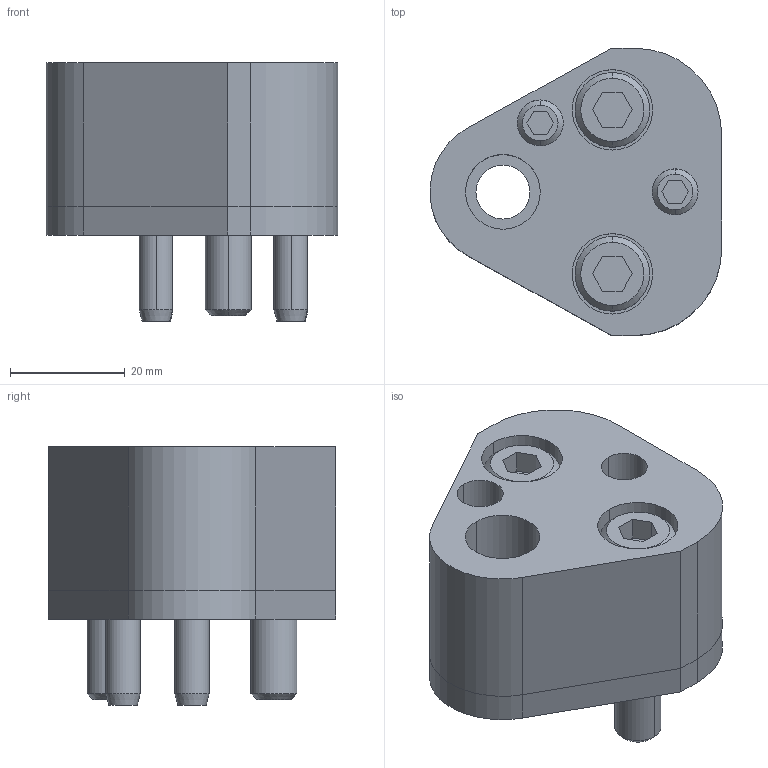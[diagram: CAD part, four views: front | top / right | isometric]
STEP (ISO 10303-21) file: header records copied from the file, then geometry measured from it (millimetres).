
FILE_DESCRIPTION(/* description */ (''),/* implementation_level */ '2;1');
FILE_NAME(/* name */ '3d_25crn-ad13_03126_r00.stp',/* time_stamp */ '2011-01-10T14:17:55+09:00',/* author */ ('MISUMI'),/* organization */ (''),/* preprocessor_version */ 'ST-DEVELOPER v11',/* originating_system */ 'UGS - NX 5.0',/* authorisation */ '');
FILE_SCHEMA (('CONFIG_CONTROL_DESIGN'));
Length unit declared in the file: millimetre
Products named in the file (1): 3d_25crn-ad13_03126_r00
Bounding box: 50.76 x 50 x 45 mm (x, y, z)
Volume: 51400.8 mm3; surface area: 20712.9 mm2
Topology: 8 solids, 8 shells, 155 faces, 348 edges, 224 vertices
Faces by surface type: plane 67, cylinder 62, cone 26
Entity records: 4494 total; most frequent: DIRECTION 804, CARTESIAN_POINT 782, ORIENTED_EDGE 696, EDGE_CURVE 348, AXIS2_PLACEMENT_3D 306, VERTEX_POINT 224, LINE 192, VECTOR 192
